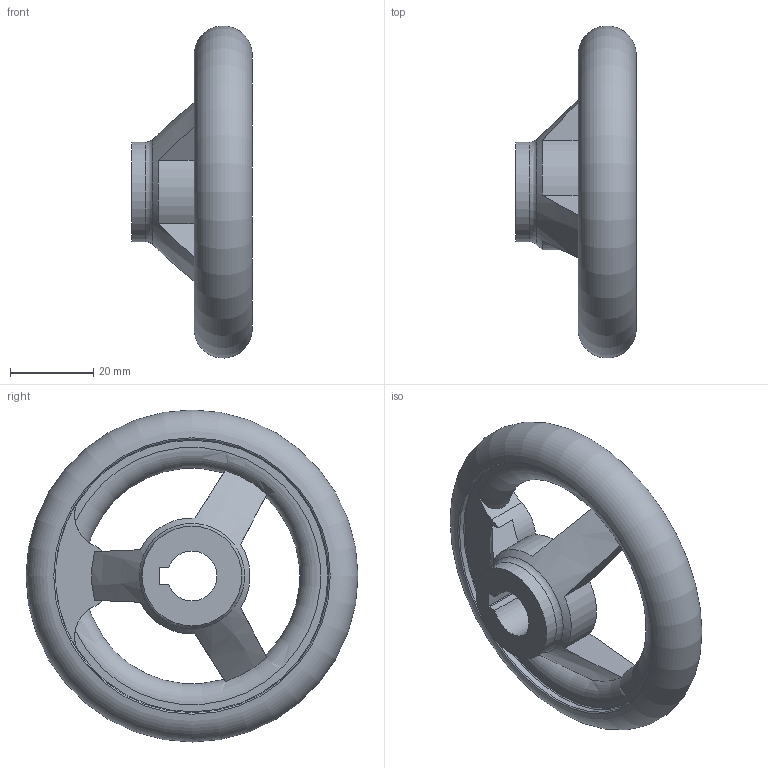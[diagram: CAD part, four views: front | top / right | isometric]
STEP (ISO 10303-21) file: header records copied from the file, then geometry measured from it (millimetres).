
FILE_DESCRIPTION( ( 'STEP AP203' ), '1' );
FILE_NAME( 'C:/Temp/Ganter_Step_05_03_2020/data/1_3/din_950/din_950_k/din_950_k_a/Handwheel DIN 950-AL-80-K12-A.stp', '2020-03-05T10:30:29', ( 'License CC BY-ND 4.0' ), ( 'CADENAS' ), ' ', 'PARTsolutions', ' ' );
FILE_SCHEMA( ( 'CONFIG_CONTROL_DESIGN' ) );
Length unit declared in the file: millimetre
Products named in the file (1): _Handwheel DIN 950-AL-80-K12-A
Bounding box: 29 x 79.98 x 79.98 mm (x, y, z)
Volume: 39280.6 mm3; surface area: 13838.1 mm2
Topology: 1 solids, 1 shells, 40 faces, 116 edges, 74 vertices
Faces by surface type: plane 15, cylinder 13, torus 10, cone 2
Full cylindrical faces by diameter (mm): 24 x2, 66 x2
Entity records: 1526 total; most frequent: CARTESIAN_POINT 500, DIRECTION 202, ORIENTED_EDGE 198, EDGE_CURVE 99, AXIS2_PLACEMENT_3D 89, VERTEX_POINT 71, EDGE_LOOP 57, FACE_OUTER_BOUND 51
